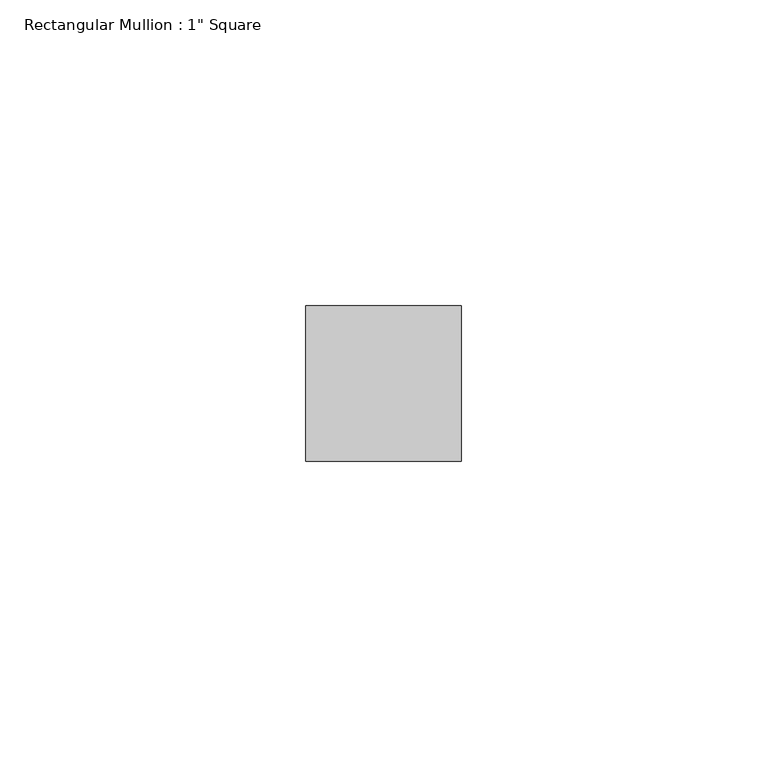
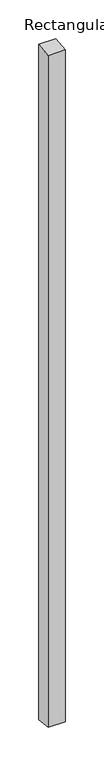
"""IFC4 building model written with IfcOpenShell, lengths in millimetres: member geometry."""

from ifc_helpers import new_model, si_unit, origin, place, context, project, spatial, faceted_brep, source, transform, mapped, element, save


def member_88dc7c51(model_context):
    return source(origin(), model_context, "Body", "Brep", [
        faceted_brep([(-25.4, 12.7, 1.0216184), (0.0, 12.7, 1.2710677), (0.0, 12.7, -1068.2847235), (-25.4, 12.7, -1067.9933438), (-25.4, -12.7, -1.5205171), (-25.4, -12.7, -1065.0238968), (0.0, -12.7, -1.2710677), (0.0, -12.7, -1065.3152765)], [[[0, 1, 2, 3]], [[4, 0, 3, 5]], [[6, 4, 5, 7]], [[1, 6, 7, 2]], [[1, 0, 4, 6]], [[2, 7, 5, 3]]]),
    ])


if __name__ == "__main__":
    model = new_model("IFC4")
    model_context = context("Model", 3, world=origin())
    ifc_project = project(units=[si_unit("LENGTHUNIT", "METRE", prefix="MILLI")], contexts=[model_context])
    site = spatial("IfcSite", under=ifc_project)
    building = spatial("IfcBuilding", under=site)
    placement = place(None, origin())
    member_shape = member_88dc7c51(model_context)
    element("IfcMember", 1, ObjectType="Rectangular Mullion : 1\" Square", at=placement, inside=building, context=model_context, shape_type="MappedRepresentation", body=[
        mapped(member_shape, transform((0.0, 0.0, 0.0), x_axis=(1.0, 0.0, 0.0), y_axis=(0.0, 1.0, 0.0), z_axis=(0.0, 0.0, 1.0))),
    ])
    save(model, "model.ifc")
